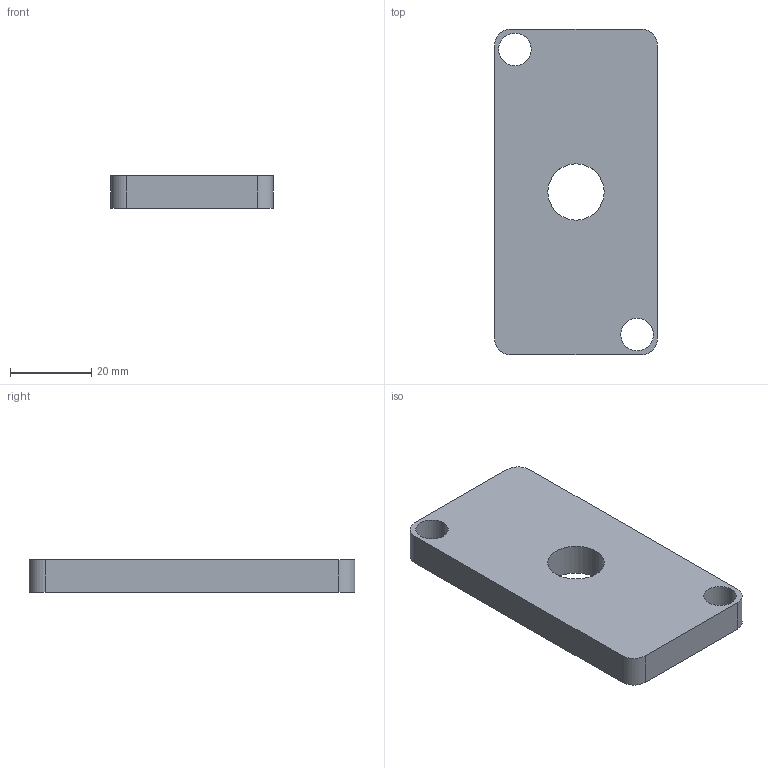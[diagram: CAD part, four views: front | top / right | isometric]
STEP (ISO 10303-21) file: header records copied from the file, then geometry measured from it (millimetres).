
FILE_DESCRIPTION(/* description */ ('ENDPLATE FOR FOOT M16, PROFILE 40x80'),/* implementation_level */ '2;1');
FILE_NAME(/* name */ '\\carryline.intra\privat\users\mathias\Desktop\Tillfälliga filer\100-1180.stp',/* time_stamp */ '2018-11-19T11:08:34+01:00',/* author */ ('ML'),/* organization */ ('CARRYLINE'),/* preprocessor_version */ 'ST-DEVELOPER v17',/* originating_system */ 'Autodesk Inventor 2018',/* authorisation */ '');
FILE_SCHEMA (('AUTOMOTIVE_DESIGN { 1 0 10303 214 3 1 1 }'));
Length unit declared in the file: millimetre
Products named in the file (1): 100-1180
Bounding box: 40 x 80 x 8 mm (x, y, z)
Volume: 23483.2 mm3; surface area: 8485.7 mm2
Topology: 1 solids, 1 shells, 13 faces, 36 edges, 25 vertices
Faces by surface type: cylinder 7, plane 6
Full cylindrical faces by diameter (mm): 8 x2, 13.835 x1
Entity records: 482 total; most frequent: DIRECTION 81, CARTESIAN_POINT 75, ORIENTED_EDGE 72, EDGE_CURVE 36, AXIS2_PLACEMENT_3D 31, VERTEX_POINT 25, EDGE_LOOP 19, LINE 19
